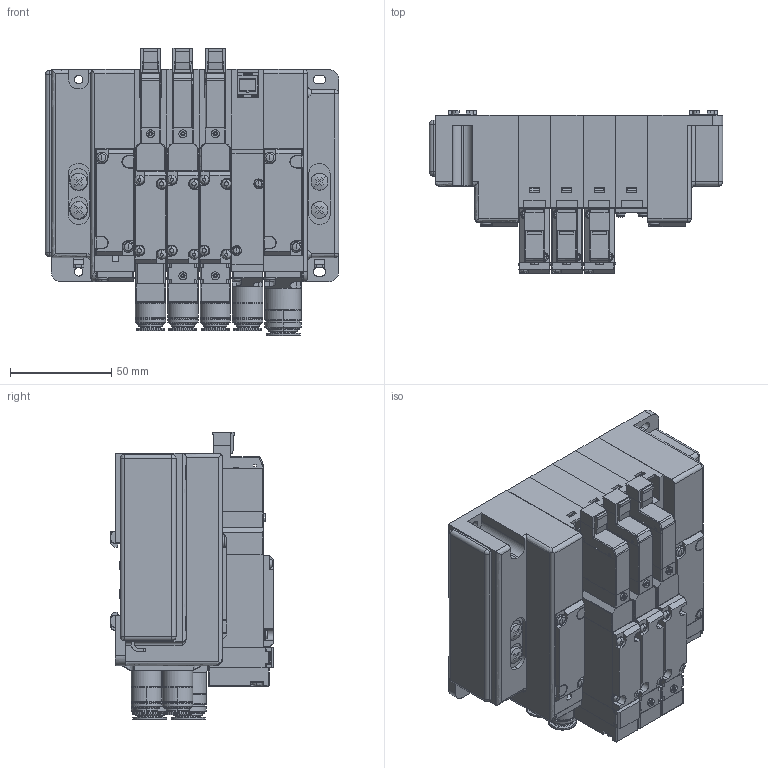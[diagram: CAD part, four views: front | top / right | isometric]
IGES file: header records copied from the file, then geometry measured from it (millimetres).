
Start section: ------------------------------------------------------------------------
Global section: file name: D:\ICADMX\tmp\trans3d_spg\CVICAD02.5220.F15M4XNJ-JR-DN_16296.igs; native system: spGate; preprocessor: ver12.6.6; author: Unknown; organization: Unknown; date: 210712.184630; units: millimetre
Bounding box: 145 x 80.2 x 142.1 mm (x, y, z)
Volume: 807122.8 mm3; surface area: 211555.7 mm2
Topology: 37 solids, 37 shells, 3626 faces, 9391 edges, 6032 vertices
Faces by surface type: bspline 3626
